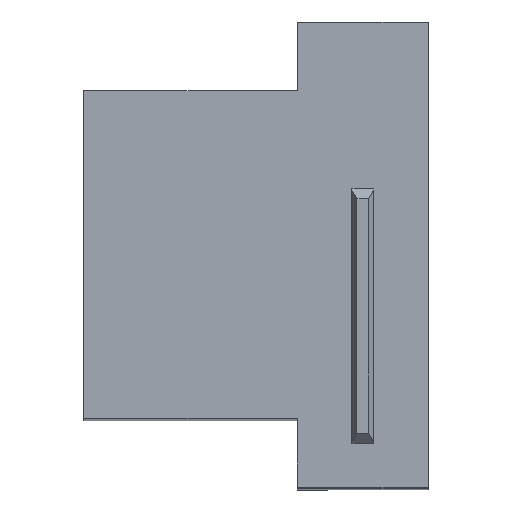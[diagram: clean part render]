
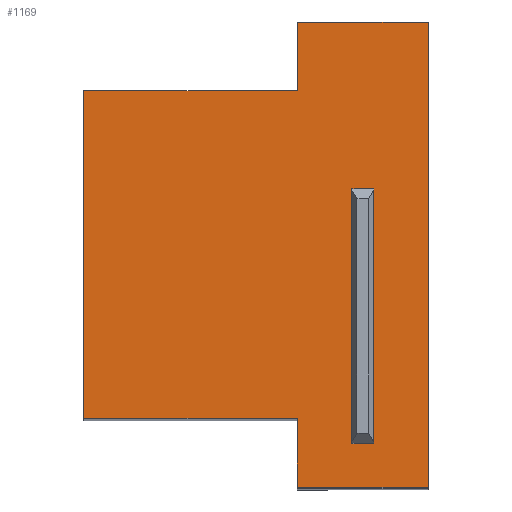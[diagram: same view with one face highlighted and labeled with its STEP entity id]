
A CAD part, top view. The second image highlights one B-rep face of the part: STEP entity #1169.
In plain terms, the highlighted planar face has unit normal (0, 0, 1).
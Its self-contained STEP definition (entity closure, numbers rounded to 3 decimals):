
#40 = LINE ( 'NONE', #1426, #167 ) ;
#48 = VERTEX_POINT ( 'NONE', #1192 ) ;
#54 = VECTOR ( 'NONE', #1594, 1000. ) ;
#80 = VECTOR ( 'NONE', #456, 1000. ) ;
#97 = CARTESIAN_POINT ( 'NONE',  ( 5.54, 5., 0. ) ) ;
#135 = DIRECTION ( 'NONE',  ( 1., 0., 0. ) ) ;
#167 = VECTOR ( 'NONE', #1162, 1000. ) ;
#175 = CARTESIAN_POINT ( 'NONE',  ( -3.96, 28.75, 0. ) ) ;
#218 = CARTESIAN_POINT ( 'NONE',  ( 5.54, 0., 0. ) ) ;
#234 = EDGE_CURVE ( 'NONE', #729, #1347, #40, .T. ) ;
#235 = CARTESIAN_POINT ( 'NONE',  ( -3.96, 0., 0. ) ) ;
#277 = LINE ( 'NONE', #1782, #399 ) ;
#285 = ORIENTED_EDGE ( 'NONE', *, *, #1280, .T. ) ;
#320 = CARTESIAN_POINT ( 'NONE',  ( -3.96, 0., 0. ) ) ;
#356 = VECTOR ( 'NONE', #509, 1000. ) ;
#376 = ORIENTED_EDGE ( 'NONE', *, *, #656, .T. ) ;
#395 = EDGE_CURVE ( 'NONE', #795, #952, #915, .T. ) ;
#399 = VECTOR ( 'NONE', #1364, 1000. ) ;
#456 = DIRECTION ( 'NONE',  ( 0., 1., 0. ) ) ;
#458 = LINE ( 'NONE', #320, #1335 ) ;
#460 = CARTESIAN_POINT ( 'NONE',  ( 0., 0., 0. ) ) ;
#509 = DIRECTION ( 'NONE',  ( 0., -1., 0. ) ) ;
#516 = CARTESIAN_POINT ( 'NONE',  ( 5.54, 0., 0. ) ) ;
#550 = CARTESIAN_POINT ( 'NONE',  ( -19.46, 5., 0. ) ) ;
#565 = ORIENTED_EDGE ( 'NONE', *, *, #820, .T. ) ;
#590 = ORIENTED_EDGE ( 'NONE', *, *, #1410, .T. ) ;
#598 = CARTESIAN_POINT ( 'NONE',  ( -3.96, 33.75, 0. ) ) ;
#615 = CARTESIAN_POINT ( 'NONE',  ( -3.96, 33.75, 0. ) ) ;
#656 = EDGE_CURVE ( 'NONE', #719, #48, #962, .T. ) ;
#719 = VERTEX_POINT ( 'NONE', #839 ) ;
#724 = DIRECTION ( 'NONE',  ( -1., 0., 0. ) ) ;
#729 = VERTEX_POINT ( 'NONE', #830 ) ;
#730 = CARTESIAN_POINT ( 'NONE',  ( 5.54, 0., 0. ) ) ;
#738 = DIRECTION ( 'NONE',  ( 0., 1., 0. ) ) ;
#744 = CARTESIAN_POINT ( 'NONE',  ( 5.54, 28.75, 0. ) ) ;
#770 = CARTESIAN_POINT ( 'NONE',  ( -19.46, 28.75, 0. ) ) ;
#795 = VERTEX_POINT ( 'NONE', #97 ) ;
#810 = CARTESIAN_POINT ( 'NONE',  ( 5.54, 33.75, 0. ) ) ;
#820 = EDGE_CURVE ( 'NONE', #1347, #795, #277, .T. ) ;
#830 = CARTESIAN_POINT ( 'NONE',  ( -3.96, 0., 0. ) ) ;
#832 = VECTOR ( 'NONE', #1076, 1000. ) ;
#839 = CARTESIAN_POINT ( 'NONE',  ( -19.46, 5., 0. ) ) ;
#874 = CARTESIAN_POINT ( 'NONE',  ( -19.46, 28.75, 0. ) ) ;
#883 = AXIS2_PLACEMENT_3D ( 'NONE', #460, #1414, #724 ) ;
#900 = LINE ( 'NONE', #770, #54 ) ;
#915 = LINE ( 'NONE', #730, #80 ) ;
#952 = VERTEX_POINT ( 'NONE', #744 ) ;
#956 = EDGE_CURVE ( 'NONE', #1077, #1091, #458, .T. ) ;
#962 = LINE ( 'NONE', #550, #1531 ) ;
#965 = ORIENTED_EDGE ( 'NONE', *, *, #1407, .T. ) ;
#1031 = CARTESIAN_POINT ( 'NONE',  ( -19.46, 28.75, 0. ) ) ;
#1045 = LINE ( 'NONE', #1031, #1511 ) ;
#1057 = ORIENTED_EDGE ( 'NONE', *, *, #956, .T. ) ;
#1068 = LINE ( 'NONE', #516, #832 ) ;
#1076 = DIRECTION ( 'NONE',  ( 0., 1., 0. ) ) ;
#1077 = VERTEX_POINT ( 'NONE', #598 ) ;
#1091 = VERTEX_POINT ( 'NONE', #175 ) ;
#1112 = ORIENTED_EDGE ( 'NONE', *, *, #234, .T. ) ;
#1134 = EDGE_LOOP ( 'NONE', ( #1057, #1255, #1138, #376, #965, #1112, #565, #1249, #590, #285 ) ) ;
#1138 = ORIENTED_EDGE ( 'NONE', *, *, #1750, .F. ) ;
#1162 = DIRECTION ( 'NONE',  ( 1., 0., 0. ) ) ;
#1169 = ADVANCED_FACE ( 'NONE', ( #1703 ), #1572, .F. ) ;
#1182 = LINE ( 'NONE', #615, #1207 ) ;
#1192 = CARTESIAN_POINT ( 'NONE',  ( -3.96, 5., 0. ) ) ;
#1207 = VECTOR ( 'NONE', #1721, 1000. ) ;
#1249 = ORIENTED_EDGE ( 'NONE', *, *, #395, .T. ) ;
#1255 = ORIENTED_EDGE ( 'NONE', *, *, #1257, .F. ) ;
#1257 = EDGE_CURVE ( 'NONE', #1783, #1091, #900, .T. ) ;
#1280 = EDGE_CURVE ( 'NONE', #1488, #1077, #1182, .T. ) ;
#1335 = VECTOR ( 'NONE', #1548, 1000. ) ;
#1347 = VERTEX_POINT ( 'NONE', #218 ) ;
#1364 = DIRECTION ( 'NONE',  ( 0., 1., 0. ) ) ;
#1407 = EDGE_CURVE ( 'NONE', #48, #729, #1737, .T. ) ;
#1410 = EDGE_CURVE ( 'NONE', #952, #1488, #1068, .T. ) ;
#1414 = DIRECTION ( 'NONE',  ( 0., 0., -1. ) ) ;
#1426 = CARTESIAN_POINT ( 'NONE',  ( -3.96, 0., 0. ) ) ;
#1488 = VERTEX_POINT ( 'NONE', #810 ) ;
#1511 = VECTOR ( 'NONE', #738, 1000. ) ;
#1531 = VECTOR ( 'NONE', #135, 1000. ) ;
#1548 = DIRECTION ( 'NONE',  ( 0., -1., 0. ) ) ;
#1572 = PLANE ( 'NONE',  #883 ) ;
#1594 = DIRECTION ( 'NONE',  ( 1., 0., 0. ) ) ;
#1703 = FACE_OUTER_BOUND ( 'NONE', #1134, .T. ) ;
#1721 = DIRECTION ( 'NONE',  ( -1., 0., 0. ) ) ;
#1737 = LINE ( 'NONE', #235, #356 ) ;
#1750 = EDGE_CURVE ( 'NONE', #719, #1783, #1045, .T. ) ;
#1782 = CARTESIAN_POINT ( 'NONE',  ( 5.54, 0., 0. ) ) ;
#1783 = VERTEX_POINT ( 'NONE', #874 ) ;
